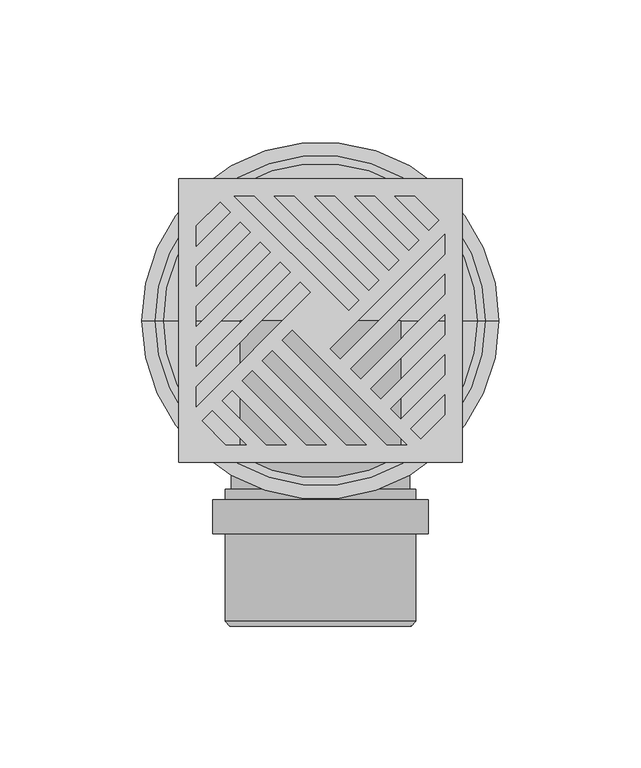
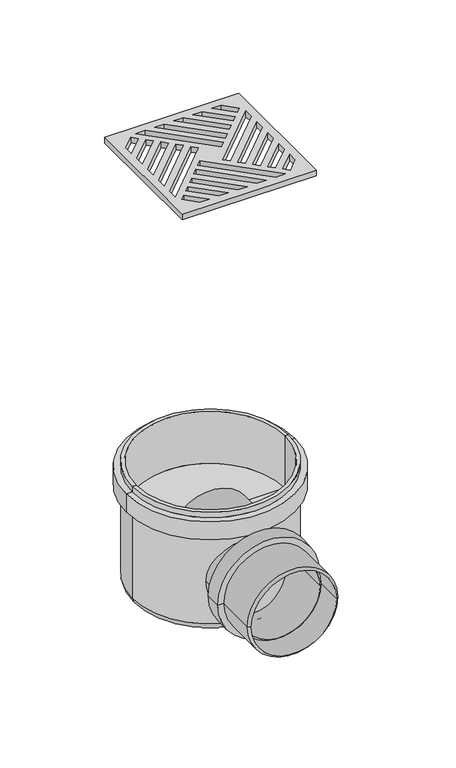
"""IFC4 building model written with IfcOpenShell, lengths in millimetres: pipe fitting geometry, AmancoWavin_Unionesdetubería_SilentiumPiletaGiratoria5Entradas : Giratoria 5 Entradas."""

from ifc_helpers import new_model, si_unit, point, frame, origin, place, context, project, spatial, polyline, circle_curve, ellipse_curve, trimmed, outline, extrude, source, transform, mapped, element, save
from ifc_brep_helpers import plane_surface, cylinder_surface, revolved_surface, advanced_brep


def pipe_fitting_29e50c56(model_context):
    return source(origin(), model_context, "Body", "SolidModel", [
        advanced_brep(
        [(38.0, -75.1, -296.7), (-38.0, -75.1, -296.7), (-33.6, -75.1, -296.7), (33.6, -75.1, -296.7), (38.0, -63.1, -296.7), (-38.0, -63.1, -296.7), (33.6, -63.1, -296.7), (-33.6, -63.1, -296.7), (33.6, -59.5, -296.7), (-33.6, -59.5, -296.7), (31.95, -59.5, -296.7), (-31.95, -59.5, -296.7), (31.95, -107.65, -296.7), (-31.95, -107.65, -296.7), (33.6, -106.0, -296.7), (-33.6, -106.0, -296.7)],
        [
            (0, 1, circle_curve(frame((0.0, -75.1, -296.7), z_axis=(0.0, -1.0, 0.0), x_axis=(-1.0, 0.0, 0.0)), 38.0)),
            (1, 2),
            (2, 3, circle_curve(frame((0.0, -75.1, -296.7), z_axis=(0.0, 1.0, 0.0), x_axis=(-1.0, 0.0, 0.0)), 33.6)),
            (3, 0),
            (1, 0, circle_curve(frame((0.0, -75.1, -296.7), z_axis=(0.0, -1.0, 0.0), x_axis=(-1.0, 0.0, 0.0)), 38.0)),
            (3, 2, circle_curve(frame((0.0, -75.1, -296.7), z_axis=(0.0, 1.0, 0.0), x_axis=(-1.0, 0.0, 0.0)), 33.6)),
            (4, 5, circle_curve(frame((0.0, -63.1, -296.7), z_axis=(0.0, -1.0, 0.0), x_axis=(-1.0, 0.0, 0.0)), 38.0)),
            (5, 1),
            (0, 4),
            (5, 4, circle_curve(frame((0.0, -63.1, -296.7), z_axis=(0.0, -1.0, 0.0), x_axis=(-1.0, 0.0, 0.0)), 38.0)),
            (6, 7, circle_curve(frame((0.0, -63.1, -296.7), z_axis=(0.0, -1.0, 0.0), x_axis=(-1.0, 0.0, 0.0)), 33.6)),
            (7, 5),
            (4, 6),
            (7, 6, circle_curve(frame((0.0, -63.1, -296.7), z_axis=(0.0, -1.0, 0.0), x_axis=(-1.0, 0.0, 0.0)), 33.6)),
            (8, 9, circle_curve(frame((0.0, -59.5, -296.7), z_axis=(0.0, -1.0, 0.0), x_axis=(-1.0, 0.0, 0.0)), 33.6)),
            (9, 7),
            (6, 8),
            (9, 8, circle_curve(frame((0.0, -59.5, -296.7), z_axis=(0.0, -1.0, 0.0), x_axis=(-1.0, 0.0, 0.0)), 33.6)),
            (10, 11, circle_curve(frame((0.0, -59.5, -296.7), z_axis=(0.0, -1.0, 0.0), x_axis=(-1.0, 0.0, 0.0)), 31.95)),
            (11, 9),
            (8, 10),
            (11, 10, circle_curve(frame((0.0, -59.5, -296.7), z_axis=(0.0, -1.0, 0.0), x_axis=(-1.0, 0.0, 0.0)), 31.95)),
            (12, 13, circle_curve(frame((0.0, -107.65, -296.7), z_axis=(0.0, -1.0, 0.0), x_axis=(-1.0, 0.0, 0.0)), 31.95)),
            (13, 11),
            (10, 12),
            (13, 12, circle_curve(frame((0.0, -107.65, -296.7), z_axis=(0.0, -1.0, 0.0), x_axis=(-1.0, 0.0, 0.0)), 31.95)),
            (14, 15, circle_curve(frame((0.0, -106.0, -296.7), z_axis=(0.0, -1.0, 0.0), x_axis=(-1.0, 0.0, 0.0)), 33.6)),
            (15, 13),
            (12, 14),
            (15, 14, circle_curve(frame((0.0, -106.0, -296.7), z_axis=(0.0, -1.0, 0.0), x_axis=(-1.0, 0.0, 0.0)), 33.6)),
            (2, 15),
            (14, 3),
        ],
        [
            plane_surface(frame((0.0, -75.1, -296.7), z_axis=(0.0, -1.0, 0.0), x_axis=(-1.0, 0.0, 0.0))),
            cylinder_surface(frame((0.0, -2105.935, -296.7), z_axis=(0.0, 1.0, 0.0), x_axis=(-1.0, 0.0, 0.0)), 38.0),
            plane_surface(frame((0.0, -63.1, -296.7), z_axis=(0.0, 1.0, 0.0), x_axis=(-1.0, 0.0, 0.0))),
            cylinder_surface(frame((0.0, -2105.935, -296.7), z_axis=(0.0, 1.0, 0.0), x_axis=(-1.0, 0.0, 0.0)), 33.6),
            plane_surface(frame((0.0, -59.5, -296.7), z_axis=(0.0, 1.0, 0.0), x_axis=(-1.0, 0.0, 0.0))),
            revolved_surface(polyline([(-31.95, -59.5, -296.7), (-31.95, -107.65000000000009, -296.7)]), (0.0, -2105.935, -296.7), (0.0, 1.0, 0.0)),
            revolved_surface(polyline([(-31.95, -107.65, -296.7), (-33.6, -106.0, -296.7)]), (0.0, -2105.935, -296.7), (0.0, 1.0, 0.0)),
        ],
        [
            (0, [[1, 2, 3, 4]]),
            (0, [[5, -4, 6, -2]]),
            (1, [[7, 8, -1, 9]]),
            (1, [[10, -9, -5, -8]]),
            (2, [[11, 12, -7, 13]]),
            (2, [[14, -13, -10, -12]]),
            (3, [[15, 16, -11, 17]]),
            (3, [[18, -17, -14, -16]]),
            (4, [[19, 20, -15, 21]]),
            (4, [[22, -21, -18, -20]]),
            (5, [[23, 24, -19, 25]]),
            (5, [[26, -25, -22, -24]]),
            (6, [[27, 28, -23, 29]]),
            (6, [[30, -29, -26, -28]]),
            (3, [[-3, 31, -27, 32]]),
            (3, [[-6, -32, -30, -31]]),
        ],
    ),
        extrude(outline(polyline([(50.0, 50.0), (50.0, -50.0), (-50.0, -50.0), (-50.0, 50.0), (50.0, 50.0)]), holes=[polyline([(-41.7197796, -35.3558186), (-33.2755982, -43.8), (-26.2045303, -43.8), (-38.1842457, -31.8202847), (-41.7197796, -35.3558186)]), polyline([(-34.6487118, -28.2847507), (-19.1334625, -43.8), (-12.0623947, -43.8), (-31.1131779, -24.7492168), (-34.6487118, -28.2847507)]), polyline([(-27.577644, -21.2136829), (-4.9913269, -43.8), (2.0797409, -43.8), (-24.0421101, -17.678149), (-27.577644, -21.2136829)]), polyline([(-20.5065762, -14.1426151), (9.1508087, -43.8), (16.2218765, -43.8), (-16.9710423, -10.6070812), (-20.5065762, -14.1426151)]), polyline([(-13.4355083, -7.0715473), (23.2929443, -43.8), (30.3640122, -43.8), (-9.8999744, -3.5360134), (-13.4355083, -7.0715473)]), polyline([(35.3558186, -41.7197796), (43.8, -33.2755982), (43.8, -26.2045303), (31.8202847, -38.1842457), (35.3558186, -41.7197796)]), polyline([(28.2847507, -34.6487118), (43.8, -19.1334625), (43.8, -12.0623947), (24.7492168, -31.1131779), (28.2847507, -34.6487118)]), polyline([(21.2136829, -27.577644), (43.8, -4.9913269), (43.8, 2.0797409), (17.678149, -24.0421101), (21.2136829, -27.577644)]), polyline([(14.1426151, -20.5065762), (43.8, 9.1508087), (43.8, 16.2218765), (10.6070812, -16.9710423), (14.1426151, -20.5065762)]), polyline([(7.0715473, -13.4355083), (43.8, 23.2929443), (43.8, 30.3640122), (3.5360134, -9.8999744), (7.0715473, -13.4355083)]), polyline([(41.7197796, 35.3558186), (33.2755982, 43.8), (26.2045303, 43.8), (38.1842457, 31.8202847), (41.7197796, 35.3558186)]), polyline([(34.6487118, 28.2847507), (19.1334625, 43.8), (12.0623947, 43.8), (31.1131779, 24.7492168), (34.6487118, 28.2847507)]), polyline([(27.577644, 21.2136829), (4.9913269, 43.8), (-2.0797409, 43.8), (24.0421101, 17.678149), (27.577644, 21.2136829)]), polyline([(20.5065762, 14.1426151), (-9.1508087, 43.8), (-16.2218765, 43.8), (16.9710423, 10.6070812), (20.5065762, 14.1426151)]), polyline([(13.4355083, 7.0715473), (-23.2929443, 43.8), (-30.3640122, 43.8), (9.8999744, 3.5360134), (13.4355083, 7.0715473)]), polyline([(-35.3558186, 41.7197796), (-43.8, 33.2755982), (-43.8, 26.2045303), (-31.8202847, 38.1842457), (-35.3558186, 41.7197796)]), polyline([(-28.2847507, 34.6487118), (-43.8, 19.1334625), (-43.8, 12.0623947), (-24.7492168, 31.1131779), (-28.2847507, 34.6487118)]), polyline([(-21.2136829, 27.577644), (-43.8, 4.9913269), (-43.8, -2.0797409), (-17.678149, 24.0421101), (-21.2136829, 27.577644)]), polyline([(-14.1426151, 20.5065762), (-43.8, -9.1508087), (-43.8, -16.2218765), (-10.6070812, 16.9710423), (-14.1426151, 20.5065762)]), polyline([(-7.0715473, 13.4355083), (-43.8, -23.2929443), (-43.8, -30.3640122), (-3.5360134, 9.8999744), (-7.0715473, 13.4355083)])]), frame((0.0, 0.0, -4.2), z_axis=(0.0, 0.0, 1.0), x_axis=(1.0, 0.0, 0.0)), (0.0, 0.0, 1.0), 4.4),
        advanced_brep(
        [(-31.5, -88.25, -296.7), (31.5, -88.25, -296.7), (29.75, -90.0, -296.7), (-29.75, -90.0, -296.7), (-31.5, 0.0, -296.7), (31.5, 0.0, -296.7), (-29.75, 0.0, -296.7), (29.75, 0.0, -296.7)],
        [
            (0, 1, circle_curve(frame((0.0, -88.25, -296.7), z_axis=(0.0, -1.0, 0.0), x_axis=(1.0, 0.0, 0.0)), 31.5)),
            (1, 2),
            (2, 3, circle_curve(frame((0.0, -90.0, -296.7), z_axis=(0.0, 1.0, 0.0), x_axis=(1.0, 0.0, 0.0)), 29.75)),
            (3, 0),
            (1, 0, circle_curve(frame((0.0, -88.25, -296.7), z_axis=(0.0, -1.0, 0.0), x_axis=(1.0, 0.0, 0.0)), 31.5)),
            (3, 2, circle_curve(frame((0.0, -90.0, -296.7), z_axis=(0.0, 1.0, 0.0), x_axis=(1.0, 0.0, 0.0)), 29.75)),
            (4, 5, circle_curve(frame((0.0, 0.0, -296.7), z_axis=(0.0, -1.0, 0.0), x_axis=(1.0, 0.0, 0.0)), 31.5)),
            (5, 1),
            (0, 4),
            (5, 4, circle_curve(frame((0.0, 0.0, -296.7), z_axis=(0.0, -1.0, 0.0), x_axis=(1.0, 0.0, 0.0)), 31.5)),
            (6, 7, circle_curve(frame((0.0, 0.0, -296.7), z_axis=(0.0, -1.0, 0.0), x_axis=(1.0, 0.0, 0.0)), 29.75)),
            (7, 5),
            (4, 6),
            (7, 6, circle_curve(frame((0.0, 0.0, -296.7), z_axis=(0.0, -1.0, 0.0), x_axis=(1.0, 0.0, 0.0)), 29.75)),
            (2, 7),
            (6, 3),
        ],
        [
            revolved_surface(polyline([(29.75, -90.0, -296.7), (31.5, -88.25, -296.7)]), (0.0, 0.0, -296.7), (0.0, 1.0, 0.0)),
            cylinder_surface(frame((0.0, 0.0, -296.7), z_axis=(0.0, 1.0, 0.0), x_axis=(1.0, 0.0, 0.0)), 31.5),
            plane_surface(frame((0.0, 0.0, -296.7), z_axis=(0.0, 1.0, 0.0), x_axis=(1.0, 0.0, 0.0))),
            revolved_surface(polyline([(29.75, 0.0, -296.7), (29.75, -90.0, -296.7)]), (0.0, 0.0, -296.7), (0.0, 1.0, 0.0)),
        ],
        [
            (0, [[1, 2, 3, 4]]),
            (0, [[5, -4, 6, -2]]),
            (1, [[7, 8, -1, 9]]),
            (1, [[10, -9, -5, -8]]),
            (2, [[11, 12, -7, 13]]),
            (2, [[14, -13, -10, -12]]),
            (3, [[-3, 15, -11, 16]]),
            (3, [[-6, -16, -14, -15]]),
        ],
    ),
        advanced_brep(
        [(55.45, 0.0, -241.7), (-55.45, 0.0, -241.7), (-55.45, 0.0, -282.7), (55.45, 0.0, -282.7), (58.15, 0.0, -241.7), (-58.15, 0.0, -241.7), (58.15, 0.0, -246.0), (-58.15, 0.0, -246.0), (62.9, 0.0, -246.0), (-62.9, 0.0, -246.0), (62.9, 0.0, -260.2), (-62.9, 0.0, -260.2), (58.15, 0.0, -260.2), (-58.15, 0.0, -260.2), (58.15, 0.0, -329.7), (-58.15, 0.0, -329.7), (52.15, 0.0, -335.7), (-52.15, 0.0, -335.7), (0.0, 0.0, -335.7), (0.0, 0.0, -282.7)],
        [
            (0, 1, circle_curve(frame((0.0, 0.0, -241.7), z_axis=(0.0, 0.0, 1.0), x_axis=(-1.0, 0.0, 0.0)), 55.45)),
            (1, 2),
            (2, 3, circle_curve(frame((0.0, 0.0, -282.7), z_axis=(0.0, 0.0, -1.0), x_axis=(-1.0, 0.0, 0.0)), 55.45)),
            (3, 0),
            (1, 0, circle_curve(frame((0.0, 0.0, -241.7), z_axis=(0.0, 0.0, 1.0), x_axis=(-1.0, 0.0, 0.0)), 55.45)),
            (3, 2, circle_curve(frame((0.0, 0.0, -282.7), z_axis=(0.0, 0.0, -1.0), x_axis=(-1.0, 0.0, 0.0)), 55.45)),
            (4, 5, circle_curve(frame((0.0, 0.0, -241.7), z_axis=(0.0, 0.0, 1.0), x_axis=(-1.0, 0.0, 0.0)), 58.15)),
            (5, 1),
            (0, 4),
            (5, 4, circle_curve(frame((0.0, 0.0, -241.7), z_axis=(0.0, 0.0, 1.0), x_axis=(-1.0, 0.0, 0.0)), 58.15)),
            (6, 7, circle_curve(frame((0.0, 0.0, -246.0), z_axis=(0.0, 0.0, 1.0), x_axis=(-1.0, 0.0, 0.0)), 58.15)),
            (7, 5),
            (4, 6),
            (7, 6, circle_curve(frame((0.0, 0.0, -246.0), z_axis=(0.0, 0.0, 1.0), x_axis=(-1.0, 0.0, 0.0)), 58.15)),
            (8, 9, circle_curve(frame((0.0, 0.0, -246.0), z_axis=(0.0, 0.0, 1.0), x_axis=(-1.0, 0.0, 0.0)), 62.9)),
            (9, 7),
            (6, 8),
            (9, 8, circle_curve(frame((0.0, 0.0, -246.0), z_axis=(0.0, 0.0, 1.0), x_axis=(-1.0, 0.0, 0.0)), 62.9)),
            (10, 11, circle_curve(frame((0.0, 0.0, -260.2), z_axis=(0.0, 0.0, 1.0), x_axis=(-1.0, 0.0, 0.0)), 62.9)),
            (11, 9),
            (8, 10),
            (11, 10, circle_curve(frame((0.0, 0.0, -260.2), z_axis=(0.0, 0.0, 1.0), x_axis=(-1.0, 0.0, 0.0)), 62.9)),
            (12, 13, circle_curve(frame((0.0, 0.0, -260.2), z_axis=(0.0, 0.0, 1.0), x_axis=(-1.0, 0.0, 0.0)), 58.15)),
            (13, 11),
            (10, 12),
            (13, 12, circle_curve(frame((0.0, 0.0, -260.2), z_axis=(0.0, 0.0, 1.0), x_axis=(-1.0, 0.0, 0.0)), 58.15)),
            (14, 15, circle_curve(frame((0.0, 0.0, -329.7), z_axis=(0.0, 0.0, 1.0), x_axis=(-1.0, 0.0, 0.0)), 58.15)),
            (15, 13),
            (12, 14),
            (15, 14, circle_curve(frame((0.0, 0.0, -329.7), z_axis=(0.0, 0.0, 1.0), x_axis=(-1.0, 0.0, 0.0)), 58.15)),
            (16, 17, circle_curve(frame((0.0, 0.0, -335.7), z_axis=(0.0, 0.0, 1.0), x_axis=(-1.0, 0.0, 0.0)), 52.15)),
            (17, 15, circle_curve(frame((-52.15, 0.0, -329.7), z_axis=(0.0, 1.0, 0.0), x_axis=(1.0, 0.0, 0.0)), 6.0)),
            (14, 16, circle_curve(frame((52.15, 0.0, -329.7), z_axis=(0.0, 1.0, 0.0), x_axis=(-1.0, 0.0, 0.0)), 6.0)),
            (17, 16, circle_curve(frame((0.0, 0.0, -335.7), z_axis=(0.0, 0.0, 1.0), x_axis=(-1.0, 0.0, 0.0)), 52.15)),
            (18, 17),
            (16, 18),
            (2, 19),
            (19, 3),
        ],
        [
            revolved_surface(polyline([(-55.45, 0.0, -282.6999999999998), (-55.45, 0.0, -241.69999999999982)]), (0.0, 0.0, 2164.3150031), (0.0, 0.0, -1.0)),
            plane_surface(frame((0.0, 0.0, -241.7), z_axis=(0.0, 0.0, 1.0), x_axis=(-1.0, 0.0, 0.0))),
            cylinder_surface(frame((0.0, 0.0, 2164.3150031), z_axis=(0.0, 0.0, -1.0), x_axis=(-1.0, 0.0, 0.0)), 58.15),
            plane_surface(frame((0.0, 0.0, -246.0), z_axis=(0.0, 0.0, 1.0), x_axis=(-1.0, 0.0, 0.0))),
            cylinder_surface(frame((0.0, 0.0, 2164.3150031), z_axis=(0.0, 0.0, -1.0), x_axis=(-1.0, 0.0, 0.0)), 62.9),
            plane_surface(frame((0.0, 0.0, -260.2), z_axis=(0.0, 0.0, -1.0), x_axis=(-1.0, 0.0, 0.0))),
            revolved_surface(trimmed(ellipse_curve(frame((-52.15, 0.0, -329.7), z_axis=(0.0, -1.0, 0.0), x_axis=(1.0, 0.0, 0.0)), 6.0, 6.0), [point((-58.15, 0.0, -329.7))], [point((-52.15, 0.0, -335.7))], True, "CARTESIAN"), (0.0, 0.0, 2164.3150031), (0.0, 0.0, -1.0)),
            plane_surface(frame((0.0, 0.0, -335.7), z_axis=(0.0, 0.0, -1.0), x_axis=(-1.0, 0.0, 0.0))),
            plane_surface(frame((0.0, 0.0, -282.7), z_axis=(0.0, 0.0, 1.0), x_axis=(-1.0, 0.0, 0.0))),
        ],
        [
            (0, [[1, 2, 3, 4]]),
            (0, [[5, -4, 6, -2]]),
            (1, [[7, 8, -1, 9]]),
            (1, [[10, -9, -5, -8]]),
            (2, [[11, 12, -7, 13]]),
            (2, [[14, -13, -10, -12]]),
            (3, [[15, 16, -11, 17]]),
            (3, [[18, -17, -14, -16]]),
            (4, [[19, 20, -15, 21]]),
            (4, [[22, -21, -18, -20]]),
            (5, [[23, 24, -19, 25]]),
            (5, [[26, -25, -22, -24]]),
            (2, [[27, 28, -23, 29]]),
            (2, [[30, -29, -26, -28]]),
            (6, [[31, 32, -27, 33]]),
            (6, [[34, -33, -30, -32]]),
            (7, [[35, -31, 36]]),
            (7, [[-36, -34, -35]]),
            (8, [[-3, 37, 38]]),
            (8, [[-6, -38, -37]]),
        ],
    ),
    ])


if __name__ == "__main__":
    model = new_model("IFC4")
    model_context = context("Model", 3, world=origin())
    ifc_project = project(units=[si_unit("LENGTHUNIT", "METRE", prefix="MILLI")], contexts=[model_context])
    site = spatial("IfcSite", under=ifc_project)
    building = spatial("IfcBuilding", under=site)
    placement = place(None, origin())
    pipe_fitting_shape = pipe_fitting_29e50c56(model_context)
    element("IfcPipeFitting", 1, ObjectType="AmancoWavin_Unionesdetubería_SilentiumPiletaGiratoria5Entradas : Giratoria 5 Entradas", at=placement, inside=building, context=model_context, shape_type="MappedRepresentation", body=[
        mapped(pipe_fitting_shape, transform((0.0, 0.0, 0.0), x_axis=(1.0, 0.0, 0.0), y_axis=(0.0, 1.0, 0.0), z_axis=(0.0, 0.0, 1.0))),
    ])
    save(model, "model.ifc")
